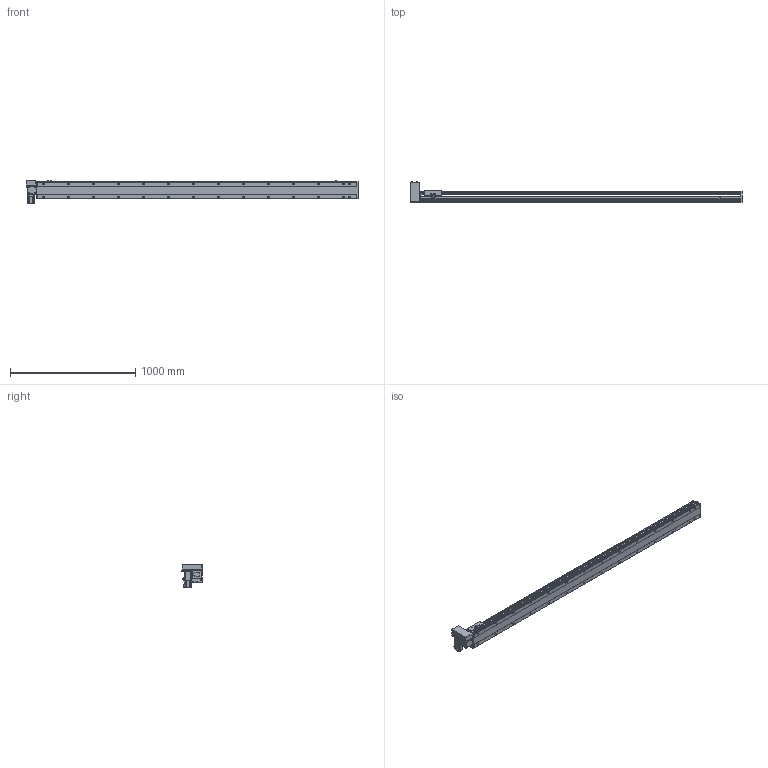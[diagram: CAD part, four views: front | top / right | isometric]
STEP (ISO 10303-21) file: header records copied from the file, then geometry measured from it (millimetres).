
FILE_DESCRIPTION(/* description */ ('STEP AP214'),/* implementation_level */ '2;1');
FILE_NAME(/* name */ 'PBS140S-P40-S2300-RU-T40-C1-N(0)',/* time_stamp */ '2022-06-09T02:56:38+02:00',/* author */ ('License CC BY-ND 4.0'),/* organization */ ('CADENAS'),/* preprocessor_version */ 'ST-DEVELOPER v18.102',/* originating_system */ 'PARTsolutions',/* authorisation */ ' ');
FILE_SCHEMA (('AUTOMOTIVE_DESIGN {1 0 10303 214 3 1 1}'));
Length unit declared in the file: millimetre
Products named in the file (7): PBS140S-P40-S2300-RU-T40-C1-N(0); PBS140S_sensor; PBS140S_plant; PBS140S_sliser; T40-p1; PBS140ST-RU_motors; PBS140S-S2300()_body
Assembly tree (8 placements, depth 2):
  PBS140S-P40-S2300-RU-T40-C1-N(0)
    PBS140S_sensor  x3
    PBS140S_plant
    PBS140S_sliser
    T40-p1
    PBS140ST-RU_motors
    PBS140S-S2300()_body
Bounding box: 2654 x 162.5 x 189.7 mm (x, y, z)
Volume: 12957641.6 mm3; surface area: 2188484.8 mm2
Topology: 8 solids, 8 shells, 1195 faces, 3151 edges, 2061 vertices
Faces by surface type: plane 738, cylinder 393, cone 54, sphere 8, torus 2
Full cylindrical faces by diameter (mm): 3.242 x4, 4 x2, 4.134 x4, 4.4 x8, 4.5 x2, 4.8 x4, 4.917 x36, 5.5 x7, 6 x2, 7 x30, 7.5 x8, 8 x12, 8.5 x4, 10.5 x28, 14 x1, 30 x2, 50 x2
Entity records: 34244 total; most frequent: CARTESIAN_POINT 6488, DIRECTION 5768, ORIENTED_EDGE 5422, EDGE_CURVE 2711, AXIS2_PLACEMENT_3D 2039, VERTEX_POINT 1897, LINE 1690, VECTOR 1690
